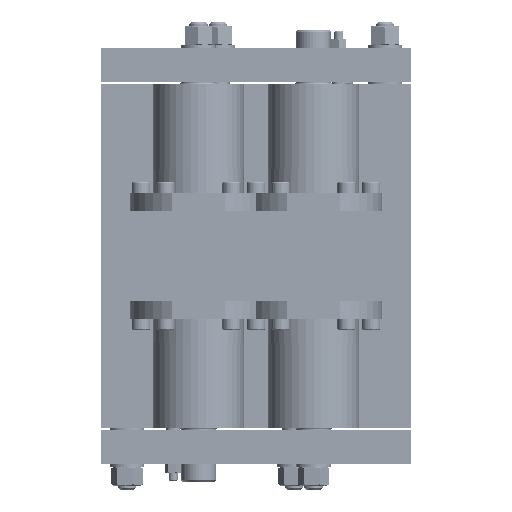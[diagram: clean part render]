
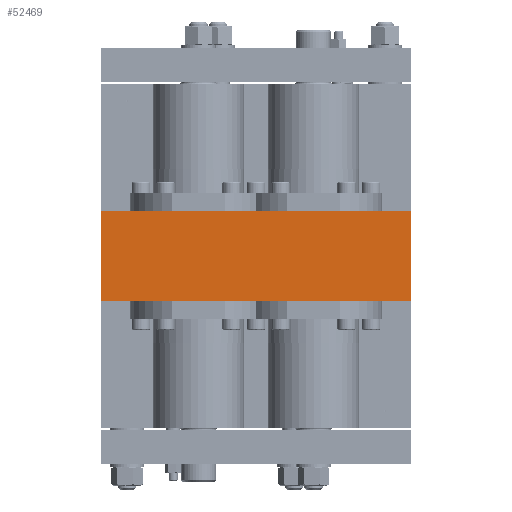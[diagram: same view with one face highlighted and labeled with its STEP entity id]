
A CAD part, front view. The second image highlights one B-rep face of the part: STEP entity #52469.
In plain terms, the highlighted planar face has unit normal (0, -1, 0).
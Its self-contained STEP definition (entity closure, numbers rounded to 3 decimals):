
#4091 = CARTESIAN_POINT ( 'NONE',  ( -135., -55., -39.5 ) ) ;
#4096 = DIRECTION ( 'NONE',  ( -1., 0., 0. ) ) ;
#4097 = VECTOR ( 'NONE', #4096, 1000. ) ;
#4098 = CARTESIAN_POINT ( 'NONE',  ( -135., -55., -39.5 ) ) ;
#4099 = LINE ( 'NONE', #4098, #4097 ) ;
#4101 = CARTESIAN_POINT ( 'NONE',  ( 135., -55., -39.5 ) ) ;
#5646 = FACE_OUTER_BOUND ( 'NONE', #52470, .T. ) ;
#5675 = DIRECTION ( 'NONE',  ( 1., 0., 0. ) ) ;
#5676 = VECTOR ( 'NONE', #5675, 1000. ) ;
#5677 = CARTESIAN_POINT ( 'NONE',  ( -135., -55., 39.5 ) ) ;
#5678 = LINE ( 'NONE', #5677, #5676 ) ;
#5680 = CARTESIAN_POINT ( 'NONE',  ( 135., -55., 39.5 ) ) ;
#5681 = DIRECTION ( 'NONE',  ( 0., 0., 1. ) ) ;
#5682 = VECTOR ( 'NONE', #5681, 1000. ) ;
#5683 = CARTESIAN_POINT ( 'NONE',  ( 135., -55., 39.5 ) ) ;
#5684 = LINE ( 'NONE', #5683, #5682 ) ;
#5685 = DIRECTION ( 'NONE',  ( -1., 0., 0. ) ) ;
#5686 = DIRECTION ( 'NONE',  ( 0., 1., 0. ) ) ;
#5687 = CARTESIAN_POINT ( 'NONE',  ( -135., -55., 39.5 ) ) ;
#5688 = AXIS2_PLACEMENT_3D ( 'NONE', #5687, #5686, #5685 ) ;
#5689 = PLANE ( 'NONE',  #5688 ) ;
#5746 = CARTESIAN_POINT ( 'NONE',  ( -135., -55., 39.5 ) ) ;
#5747 = DIRECTION ( 'NONE',  ( 0., 0., 1. ) ) ;
#5748 = VECTOR ( 'NONE', #5747, 1000. ) ;
#5749 = CARTESIAN_POINT ( 'NONE',  ( -135., -55., 39.5 ) ) ;
#5750 = LINE ( 'NONE', #5749, #5748 ) ;
#51935 = VERTEX_POINT ( 'NONE', #4101 ) ;
#51939 = EDGE_CURVE ( 'NONE', #51935, #51941, #4099, .T. ) ;
#51941 = VERTEX_POINT ( 'NONE', #4091 ) ;
#52469 = ADVANCED_FACE ( 'NONE', ( #5646 ), #5689, .F. ) ;
#52470 = EDGE_LOOP ( 'NONE', ( #52471, #52474, #52476, #52477 ) ) ;
#52471 = ORIENTED_EDGE ( 'NONE', *, *, #52472, .T. ) ;
#52472 = EDGE_CURVE ( 'NONE', #51935, #52473, #5684, .T. ) ;
#52473 = VERTEX_POINT ( 'NONE', #5680 ) ;
#52474 = ORIENTED_EDGE ( 'NONE', *, *, #52475, .F. ) ;
#52475 = EDGE_CURVE ( 'NONE', #52491, #52473, #5678, .T. ) ;
#52476 = ORIENTED_EDGE ( 'NONE', *, *, #52490, .F. ) ;
#52477 = ORIENTED_EDGE ( 'NONE', *, *, #51939, .F. ) ;
#52490 = EDGE_CURVE ( 'NONE', #51941, #52491, #5750, .T. ) ;
#52491 = VERTEX_POINT ( 'NONE', #5746 ) ;
